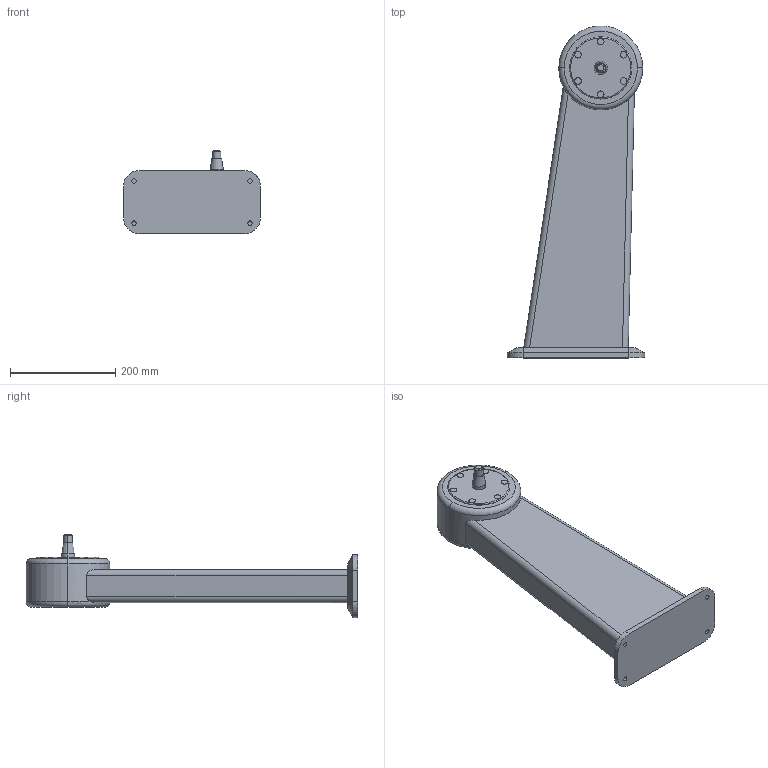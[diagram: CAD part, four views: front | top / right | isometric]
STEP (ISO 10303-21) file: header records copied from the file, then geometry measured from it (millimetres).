
FILE_DESCRIPTION (( 'STEP AP214' ), '1' );
FILE_NAME ('WP700_H550_-05.STEP', '2014-08-14T09:45:06', ( '' ), ( '' ), 'SwSTEP 2.0', 'SolidWorks 2014', '' );
FILE_SCHEMA (( 'AUTOMOTIVE_DESIGN' ));
Length unit declared in the file: millimetre
Products named in the file (1): WP700_H550_-05
Bounding box: 260 x 629.5 x 158.3 mm (x, y, z)
Volume: 7208517.7 mm3; surface area: 340981.8 mm2
Topology: 1 solids, 1 shells, 79 faces, 171 edges, 108 vertices
Faces by surface type: cylinder 36, plane 29, cone 8, torus 6
Entity records: 2294 total; most frequent: CARTESIAN_POINT 475, DIRECTION 408, ORIENTED_EDGE 342, EDGE_CURVE 171, AXIS2_PLACEMENT_3D 167, VERTEX_POINT 108, EDGE_LOOP 93, CIRCLE 87
